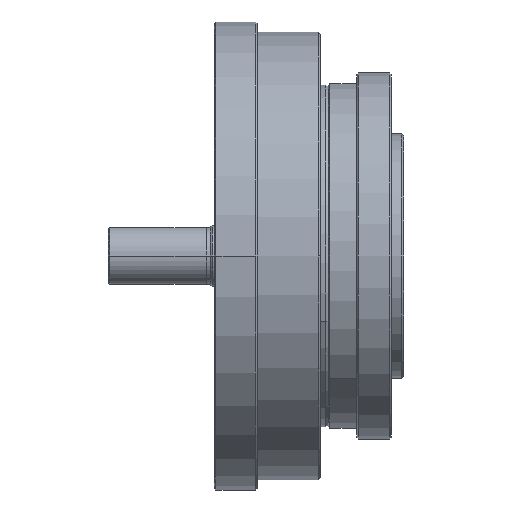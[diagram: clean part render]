
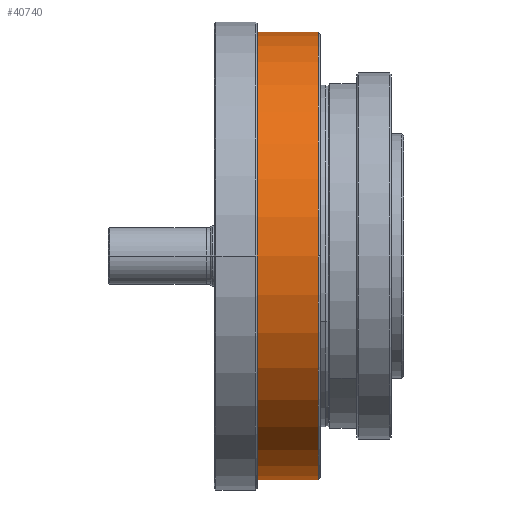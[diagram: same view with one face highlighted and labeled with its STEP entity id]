
A CAD part, front view. The second image highlights one B-rep face of the part: STEP entity #40740.
In plain terms, the highlighted cylindrical face has radius 55 mm (diameter 110 mm), a partial arc.
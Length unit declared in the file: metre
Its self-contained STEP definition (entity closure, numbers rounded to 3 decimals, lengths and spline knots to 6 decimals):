
#184 = DIRECTION ( 'NONE',  ( 1., 0., 0. ) ) ;
#2826 = AXIS2_PLACEMENT_3D ( 'NONE', #46956, #38658, #47555 ) ;
#3181 = VERTEX_POINT ( 'NONE', #30357 ) ;
#3232 = DIRECTION ( 'NONE',  ( 0., 0., 1. ) ) ;
#5598 = EDGE_CURVE ( 'NONE', #34239, #50402, #18712, .T. ) ;
#5979 = CARTESIAN_POINT ( 'NONE',  ( 0.002033, 0., 0.055 ) ) ;
#7614 = DIRECTION ( 'NONE',  ( 0., 0., 1. ) ) ;
#8328 = AXIS2_PLACEMENT_3D ( 'NONE', #50956, #52994, #7614 ) ;
#11329 = AXIS2_PLACEMENT_3D ( 'NONE', #55630, #50739, #3232 ) ;
#11660 = AXIS2_PLACEMENT_3D ( 'NONE', #23497, #184, #51071 ) ;
#13066 = AXIS2_PLACEMENT_3D ( 'NONE', #37106, #56065, #50271 ) ;
#13323 = ORIENTED_EDGE ( 'NONE', *, *, #42206, .T. ) ;
#13443 = CARTESIAN_POINT ( 'NONE',  ( 0.0078, 0., -0.055 ) ) ;
#14095 = CARTESIAN_POINT ( 'NONE',  ( 0.002033, 0., -0.055 ) ) ;
#18513 = EDGE_CURVE ( 'NONE', #36359, #50402, #24343, .T. ) ;
#18712 = LINE ( 'NONE', #14095, #34655 ) ;
#20128 = CIRCLE ( 'NONE', #11329, 0.055 ) ;
#21489 = ORIENTED_EDGE ( 'NONE', *, *, #33681, .T. ) ;
#21676 = CARTESIAN_POINT ( 'NONE',  ( 0.0255, -0.055, 0. ) ) ;
#23377 = CIRCLE ( 'NONE', #11660, 0.055 ) ;
#23497 = CARTESIAN_POINT ( 'NONE',  ( 0.0078, 0., 0. ) ) ;
#24343 = CIRCLE ( 'NONE', #2826, 0.055 ) ;
#25592 = EDGE_CURVE ( 'NONE', #49163, #44980, #20128, .T. ) ;
#28221 = ORIENTED_EDGE ( 'NONE', *, *, #18513, .T. ) ;
#29574 = EDGE_CURVE ( 'NONE', #44980, #3181, #37594, .T. ) ;
#30357 = CARTESIAN_POINT ( 'NONE',  ( 0.0078, 0., 0.055 ) ) ;
#33681 = EDGE_CURVE ( 'NONE', #3181, #36359, #23377, .T. ) ;
#34239 = VERTEX_POINT ( 'NONE', #57657 ) ;
#34655 = VECTOR ( 'NONE', #37403, 1. ) ;
#35288 = FACE_OUTER_BOUND ( 'NONE', #43377, .T. ) ;
#36359 = VERTEX_POINT ( 'NONE', #48550 ) ;
#37106 = CARTESIAN_POINT ( 'NONE',  ( 0.002033, 0., 0. ) ) ;
#37321 = ORIENTED_EDGE ( 'NONE', *, *, #5598, .F. ) ;
#37403 = DIRECTION ( 'NONE',  ( -1., 0., 0. ) ) ;
#37594 = LINE ( 'NONE', #5979, #53305 ) ;
#38658 = DIRECTION ( 'NONE',  ( 1., 0., 0. ) ) ;
#40740 = ADVANCED_FACE ( 'NONE', ( #35288 ), #46294, .T. ) ;
#42206 = EDGE_CURVE ( 'NONE', #34239, #49163, #49480, .T. ) ;
#43377 = EDGE_LOOP ( 'NONE', ( #37321, #13323, #59426, #56137, #21489, #28221 ) ) ;
#43841 = CARTESIAN_POINT ( 'NONE',  ( 0.0255, 0., 0.055 ) ) ;
#44980 = VERTEX_POINT ( 'NONE', #43841 ) ;
#46294 = CYLINDRICAL_SURFACE ( 'NONE', #13066, 0.055 ) ;
#46956 = CARTESIAN_POINT ( 'NONE',  ( 0.0078, 0., 0. ) ) ;
#47555 = DIRECTION ( 'NONE',  ( 0., 0., 1. ) ) ;
#48550 = CARTESIAN_POINT ( 'NONE',  ( 0.0078, -0.055, 0. ) ) ;
#49163 = VERTEX_POINT ( 'NONE', #21676 ) ;
#49480 = CIRCLE ( 'NONE', #8328, 0.055 ) ;
#50271 = DIRECTION ( 'NONE',  ( 0., 0., 1. ) ) ;
#50402 = VERTEX_POINT ( 'NONE', #13443 ) ;
#50739 = DIRECTION ( 'NONE',  ( -1., 0., 0. ) ) ;
#50956 = CARTESIAN_POINT ( 'NONE',  ( 0.0255, 0., 0. ) ) ;
#51071 = DIRECTION ( 'NONE',  ( 0., 0., 1. ) ) ;
#52994 = DIRECTION ( 'NONE',  ( -1., 0., 0. ) ) ;
#53305 = VECTOR ( 'NONE', #56875, 1. ) ;
#55630 = CARTESIAN_POINT ( 'NONE',  ( 0.0255, 0., 0. ) ) ;
#56065 = DIRECTION ( 'NONE',  ( -1., 0., 0. ) ) ;
#56137 = ORIENTED_EDGE ( 'NONE', *, *, #29574, .T. ) ;
#56875 = DIRECTION ( 'NONE',  ( -1., 0., 0. ) ) ;
#57657 = CARTESIAN_POINT ( 'NONE',  ( 0.0255, 0., -0.055 ) ) ;
#59426 = ORIENTED_EDGE ( 'NONE', *, *, #25592, .T. ) ;
